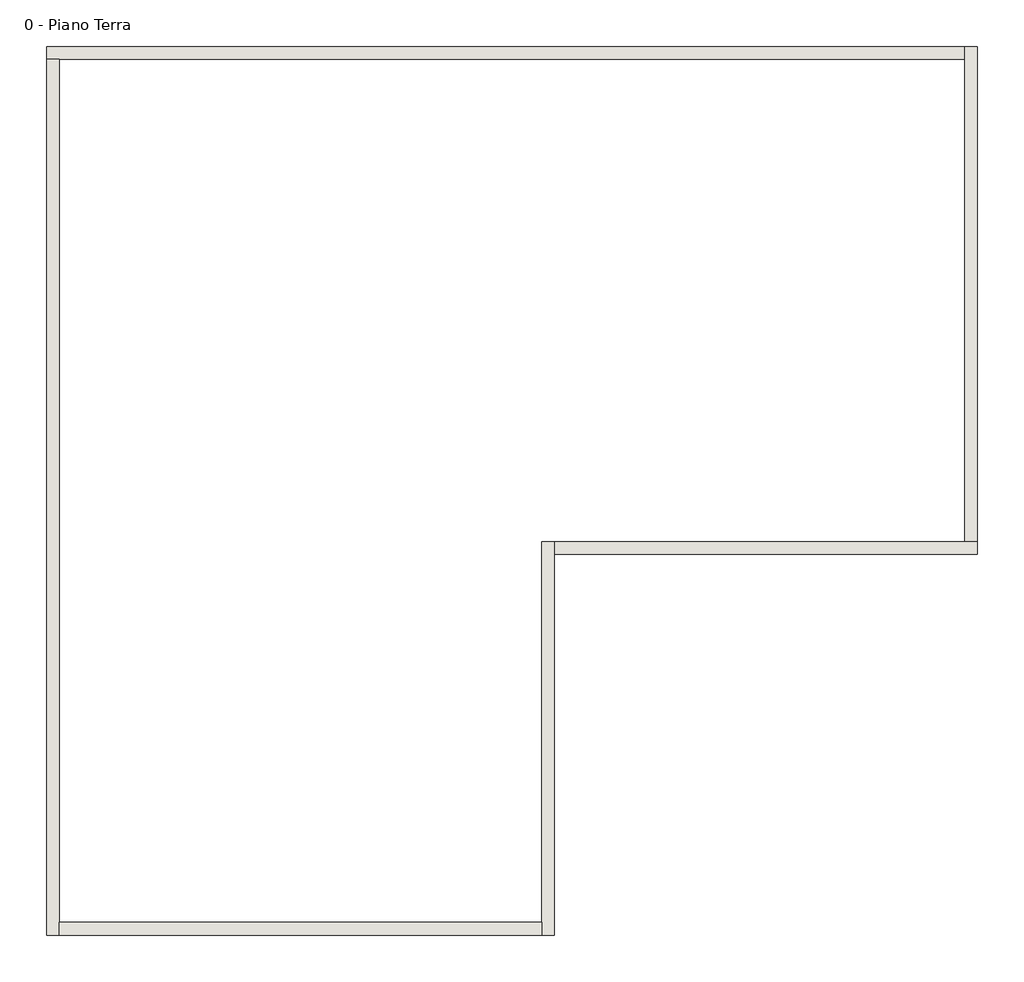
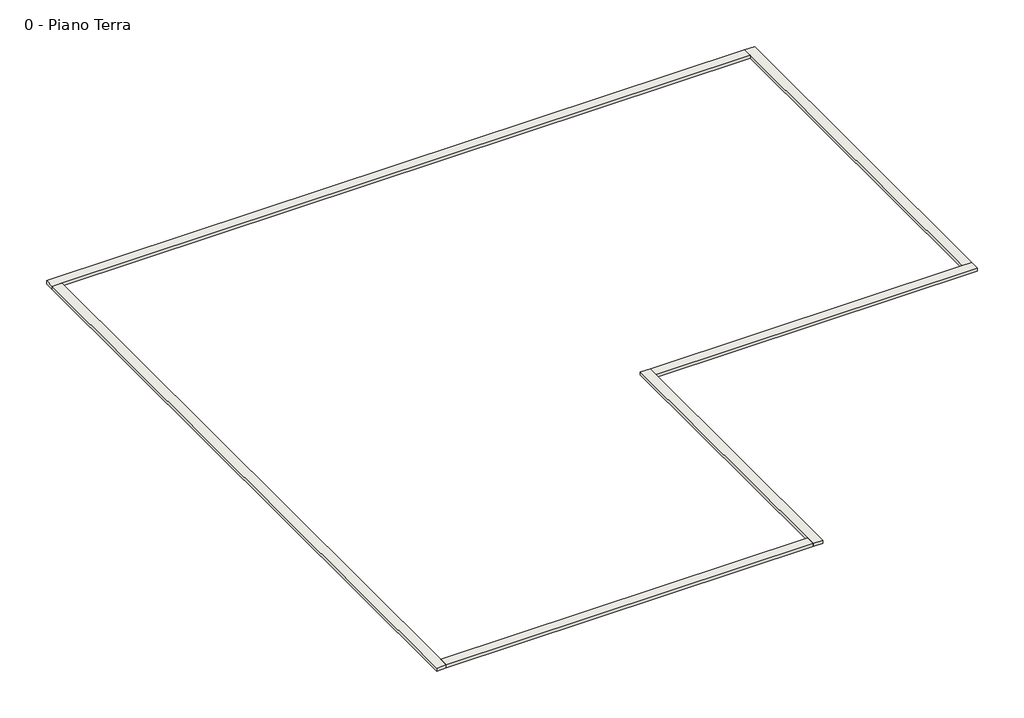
# One storey: 6 walls.
"""IFC4 building model written with IfcOpenShell, lengths in millimetres."""

from ifc_helpers import new_model, si_unit, origin, place, context, project, spatial, faceted_brep, element, save

model = new_model("IFC4")

# Units and contexts
model_context = context("Model", 3, world=origin())
ifc_project = project(units=[si_unit("LENGTHUNIT", "METRE", prefix="MILLI")], contexts=[model_context])

# Site, building, storey
site = spatial("IfcSite", under=ifc_project)
building = spatial("IfcBuilding", under=site)
storey = spatial("IfcBuildingStorey", under=building, Name="0 - Piano Terra", Elevation=0.0)

# Walls
placement = place(None, origin())
element("IfcWall", 1, ObjectType="Parete in c.a.uori terra - 30 cm", at=placement, inside=storey, context=model_context, shape_type="Brep", body=[
    faceted_brep([(4181.2184345, -10110.7549823, 0.0), (4181.2184345, -1110.7549823, 0.0), (4181.2184345, -810.7549823, 0.0), (4181.2184345, -810.7549823, 100.0), (4181.2184345, -1110.7549823, 100.0), (4181.2184345, -10110.7549823, 100.0), (3881.2184345, -10110.7549823, 0.0), (3881.2184345, -10110.7549823, 100.0), (3881.2184345, -9810.7549823, 100.0), (3881.2184345, -810.7549823, 100.0), (3881.2184345, -810.7549823, 0.0), (3881.2184345, -9810.7549823, 0.0)], [[[0, 1, 2, 3, 4, 5]], [[6, 7, 8, 9, 10, 11]], [[2, 1, 0, 6, 11, 10]], [[5, 4, 3, 9, 8, 7]], [[3, 2, 10, 9]], [[0, 5, 7, 6]]]),
])
element("IfcWall", 2, ObjectType="Parete in c.a.uori terra - 30 cm", at=placement, inside=storey, context=model_context, shape_type="Brep", body=[
    faceted_brep([(4181.2184345, -1110.7549823, 0.0), (14181.2184345, -1110.7549823, 0.0), (14181.2184345, -1110.7549823, 100.0), (4181.2184345, -1110.7549823, 100.0), (4181.2184345, -810.7549823, 0.0), (4181.2184345, -810.7549823, 100.0), (13881.2184345, -810.7549823, 100.0), (14181.2184345, -810.7549823, 100.0), (14181.2184345, -810.7549823, 20.0), (14181.2184345, -810.7549823, 0.0), (14171.2184345, -810.7549823, 0.0), (13881.2184345, -810.7549823, 0.0), (4181.2184345, -1100.7549823, 0.0)], [[[0, 1, 2, 3]], [[4, 5, 6, 7, 8, 9, 10, 11]], [[1, 0, 12, 4, 11, 10, 9]], [[3, 2, 7, 6, 5]], [[0, 3, 5, 4, 12]], [[2, 1, 9, 8, 7]]]),
])
element("IfcWall", 3, ObjectType="Parete in c.a.uori terra - 30 cm", at=placement, inside=storey, context=model_context, shape_type="Brep", body=[
    faceted_brep([(14181.2184345, -810.7549823, 0.0), (14181.2184345, 10889.2450177, 0.0), (14181.2184345, 10889.2450177, 100.0), (14181.2184345, -810.7549823, 100.0), (13881.2184345, -810.7549823, 0.0), (13881.2184345, -810.7549823, 100.0), (13881.2184345, 10589.2450177, 100.0), (13881.2184345, 10889.2450177, 100.0), (13881.2184345, 10889.2450177, 20.0), (13881.2184345, 10889.2450177, 0.0), (13881.2184345, 10879.2450177, 0.0), (13881.2184345, 10589.2450177, 0.0)], [[[0, 1, 2, 3]], [[4, 5, 6, 7, 8, 9, 10, 11]], [[1, 0, 4, 11, 10, 9]], [[3, 2, 7, 6, 5]], [[0, 3, 5, 4]], [[2, 1, 9, 8, 7]]]),
])
element("IfcWall", 4, ObjectType="Parete in c.a.uori terra - 30 cm", at=placement, inside=storey, context=model_context, shape_type="Brep", body=[
    faceted_brep([(13881.2184345, 10889.2450177, 0.0), (-7818.7815655, 10889.2450177, 0.0), (-7818.7815655, 10889.2450177, 100.0), (13881.2184345, 10889.2450177, 100.0), (13881.2184345, 10589.2450177, 0.0), (13881.2184345, 10589.2450177, 100.0), (-7518.7815655, 10589.2450177, 100.0), (-7818.7815655, 10589.2450177, 100.0), (-7818.7815655, 10589.2450177, 20.0), (-7818.7815655, 10589.2450177, 0.0), (-7808.7815655, 10589.2450177, 0.0), (-7518.7815655, 10589.2450177, 0.0)], [[[0, 1, 2, 3]], [[4, 5, 6, 7, 8, 9, 10, 11]], [[1, 0, 4, 11, 10, 9]], [[3, 2, 7, 6, 5]], [[0, 3, 5, 4]], [[2, 1, 9, 8, 7]]]),
])
element("IfcWall", 5, ObjectType="Parete in c.a.uori terra - 30 cm", at=placement, inside=storey, context=model_context, shape_type="Brep", body=[
    faceted_brep([(-7818.7815655, 10589.2450177, 0.0), (-7818.7815655, -10110.7549823, 0.0), (-7818.7815655, -10110.7549823, 100.0), (-7818.7815655, 10589.2450177, 100.0), (-7518.7815655, 10589.2450177, 0.0), (-7518.7815655, 10589.2450177, 100.0), (-7518.7815655, -9810.7549823, 100.0), (-7518.7815655, -10110.7549823, 100.0), (-7518.7815655, -10110.7549823, 0.0), (-7518.7815655, -9810.7549823, 0.0)], [[[0, 1, 2, 3]], [[4, 5, 6, 7, 8, 9]], [[1, 0, 4, 9, 8]], [[3, 2, 7, 6, 5]], [[0, 3, 5, 4]], [[2, 1, 8, 7]]]),
])
element("IfcWall", 6, ObjectType="Parete in c.a.uori terra - 30 cm", at=placement, inside=storey, context=model_context, shape_type="Brep", body=[
    faceted_brep([(-7518.7815655, -10110.7549823, 0.0), (3881.2184345, -10110.7549823, 0.0), (3881.2184345, -10110.7549823, 20.0), (3881.2184345, -10110.7549823, 100.0), (-7518.7815655, -10110.7549823, 100.0), (-7518.7815655, -10110.7549823, 20.0), (-7518.7815655, -9810.7549823, 0.0), (-7518.7815655, -9810.7549823, 100.0), (3881.2184345, -9810.7549823, 100.0), (3881.2184345, -9810.7549823, 0.0), (-7518.7815655, -10100.7549823, 0.0), (3881.2184345, -10100.7549823, 0.0)], [[[0, 1, 2, 3, 4, 5]], [[6, 7, 8, 9]], [[1, 0, 10, 6, 9, 11]], [[4, 3, 8, 7]], [[3, 2, 1, 11, 9, 8]], [[0, 5, 4, 7, 6, 10]]]),
])

save(model, "model.ifc")
